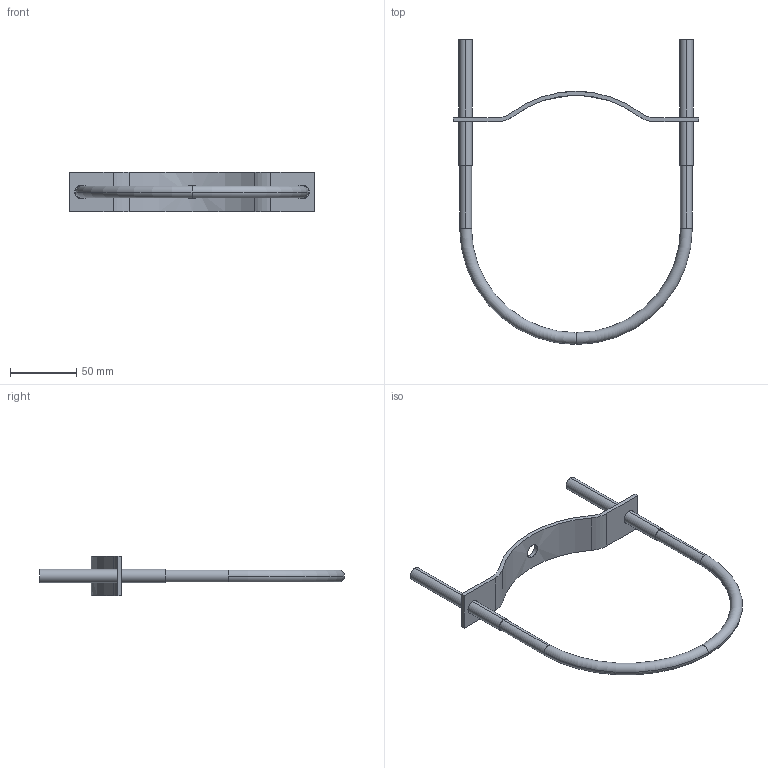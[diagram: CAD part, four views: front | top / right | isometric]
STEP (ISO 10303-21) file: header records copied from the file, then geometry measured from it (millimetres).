
FILE_DESCRIPTION((''),'2;1');
FILE_NAME('2014912200_ASM','2017-05-12T',('Administrator'),(''),'PRO/ENGINEER BY PARAMETRIC TECHNOLOGY CORPORATION, 2009360','PRO/ENGINEER BY PARAMETRIC TECHNOLOGY CORPORATION, 2009360','');
FILE_SCHEMA(('AUTOMOTIVE_DESIGN_CC2 { 1 2 10303 214 -1 1 5 2 }'));
Length unit declared in the file: millimetre
Products named in the file (3): MANIFOLD_SOLID_BREP_145; MANIFOLD_SOLID_BREP_146; 2014912200_ASM
Assembly tree (2 placements, depth 2):
  2014912200_ASM
    MANIFOLD_SOLID_BREP_145
    MANIFOLD_SOLID_BREP_146
Bounding box: 185 x 230.15 x 30 mm (x, y, z)
Volume: 53760.6 mm3; surface area: 28872.8 mm2
Topology: 2 solids, 2 shells, 36 faces, 90 edges, 60 vertices
Faces by surface type: cylinder 20, plane 12, torus 4
Entity records: 1521 total; most frequent: CARTESIAN_POINT 251, DIRECTION 216, ORIENTED_EDGE 180, PRESENTATION_STYLE_ASSIGNMENT 92, STYLED_ITEM 92, CURVE_STYLE 90, EDGE_CURVE 90, AXIS2_PLACEMENT_3D 89
